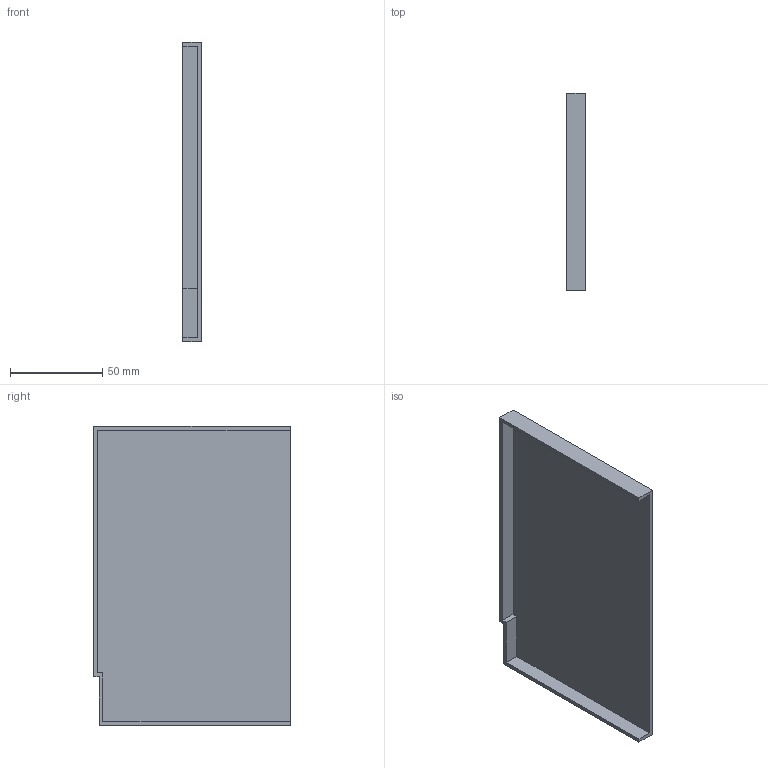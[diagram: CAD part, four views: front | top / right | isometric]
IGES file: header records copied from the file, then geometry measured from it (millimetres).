
Start section:  PTC IGES file: j4-500-700-sidecover.igs
Global section: file name: j4-500-700-sidecover.igs; native system: Pro/ENGINEER by Parametric Technology Corporation; preprocessor: 2010160; author: CV86875; organization: Unknown; date: 20121031.194044; units: millimetre
Bounding box: 10 x 106.5 x 162 mm (x, y, z)
Volume: 40283 mm3; surface area: 41389 mm2
Topology: 1 solids, 1 shells, 14 faces, 36 edges, 24 vertices
Faces by surface type: bspline 14
